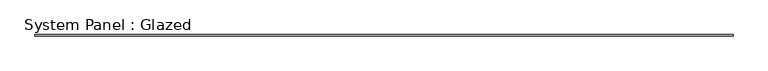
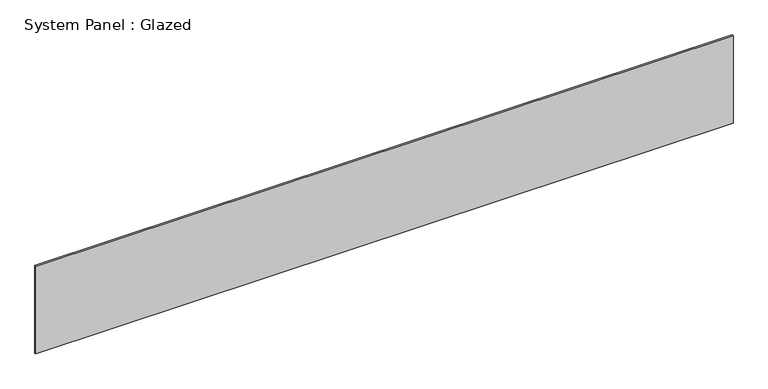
"""IFC4 building model written with IfcOpenShell, lengths in millimetres: plate geometry, System Panel : Glazed."""

from ifc_helpers import new_model, si_unit, origin, origin_with_axes, place, context, project, spatial, polyline, outline, extrude, source, transform, mapped, element, save


def system_panel_glazed_590bdfaf(model_context):
    return source(origin(), model_context, "Body", "SweptSolid", [
        extrude(outline(polyline([(6000.0, -12.5), (-6000.0, -12.5), (-6000.0, 12.5), (6000.0, 12.5), (6000.0, -12.5)])), origin_with_axes(), (0.0, 0.0, 1.0), 1595.0995941),
    ])


if __name__ == "__main__":
    model = new_model("IFC4")
    model_context = context("Model", 3, world=origin())
    ifc_project = project(units=[si_unit("LENGTHUNIT", "METRE", prefix="MILLI")], contexts=[model_context])
    site = spatial("IfcSite", under=ifc_project)
    building = spatial("IfcBuilding", under=site)
    placement = place(None, origin())
    system_panel_glazed_shape = system_panel_glazed_590bdfaf(model_context)
    element("IfcPlate", 1, ObjectType="System Panel : Glazed", at=placement, inside=building, context=model_context, shape_type="MappedRepresentation", body=[
        mapped(system_panel_glazed_shape, transform((0.0, 0.0, 0.0), x_axis=(1.0, 0.0, 0.0), y_axis=(0.0, 1.0, 0.0), z_axis=(0.0, 0.0, 1.0))),
    ])
    save(model, "model.ifc")
